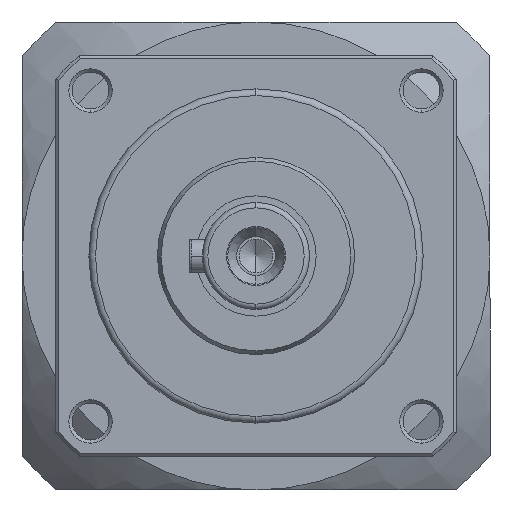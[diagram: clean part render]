
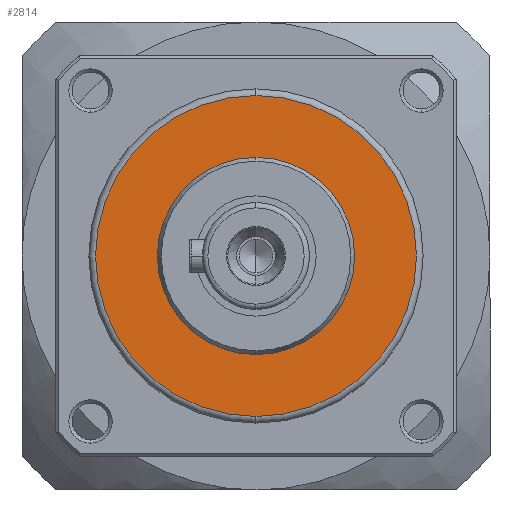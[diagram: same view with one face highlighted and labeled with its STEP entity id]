
A CAD part, left-side view. The second image highlights one B-rep face of the part: STEP entity #2814.
In plain terms, the highlighted planar face has unit normal (-1, 0, 0).
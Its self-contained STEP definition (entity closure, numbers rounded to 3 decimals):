
#573 = EDGE_CURVE ( 'NONE', #4754, #5099, #2190, .T. ) ;
#661 = DIRECTION ( 'NONE',  ( 0., 0., -1. ) ) ;
#687 = CIRCLE ( 'NONE', #1858, 24. ) ;
#1216 = DIRECTION ( 'NONE',  ( 1., 0., 0. ) ) ;
#1380 = CARTESIAN_POINT ( 'NONE',  ( -116.627, 17.121, 14.75 ) ) ;
#1483 = EDGE_LOOP ( 'NONE', ( #1989, #7168 ) ) ;
#1858 = AXIS2_PLACEMENT_3D ( 'NONE', #1921, #4542, #8530 ) ;
#1921 = CARTESIAN_POINT ( 'NONE',  ( -116.627, 17.121, 0. ) ) ;
#1989 = ORIENTED_EDGE ( 'NONE', *, *, #2212, .T. ) ;
#2190 = CIRCLE ( 'NONE', #7226, 24. ) ;
#2212 = EDGE_CURVE ( 'NONE', #5099, #4754, #687, .T. ) ;
#2432 = VERTEX_POINT ( 'NONE', #6136 ) ;
#2542 = CARTESIAN_POINT ( 'NONE',  ( -116.627, 31.871, 0. ) ) ;
#2814 = ADVANCED_FACE ( 'NONE', ( #3325, #6146 ), #8585, .F. ) ;
#2874 = CARTESIAN_POINT ( 'NONE',  ( -116.627, 17.121, 24. ) ) ;
#3325 = FACE_OUTER_BOUND ( 'NONE', #1483, .T. ) ;
#3416 = EDGE_CURVE ( 'NONE', #2432, #5275, #4522, .T. ) ;
#3622 = CARTESIAN_POINT ( 'NONE',  ( -116.627, 17.121, 0. ) ) ;
#3677 = AXIS2_PLACEMENT_3D ( 'NONE', #5090, #3745, #5762 ) ;
#3745 = DIRECTION ( 'NONE',  ( -1., 0., 0. ) ) ;
#3873 = ORIENTED_EDGE ( 'NONE', *, *, #3416, .F. ) ;
#3896 = EDGE_LOOP ( 'NONE', ( #4006, #3873 ) ) ;
#4006 = ORIENTED_EDGE ( 'NONE', *, *, #4457, .F. ) ;
#4457 = EDGE_CURVE ( 'NONE', #5275, #2432, #7418, .T. ) ;
#4522 = CIRCLE ( 'NONE', #7356, 14.75 ) ;
#4542 = DIRECTION ( 'NONE',  ( -1., 0., 0. ) ) ;
#4643 = DIRECTION ( 'NONE',  ( -1., 0., 0. ) ) ;
#4754 = VERTEX_POINT ( 'NONE', #2874 ) ;
#4971 = DIRECTION ( 'NONE',  ( 0., 0., 1. ) ) ;
#5090 = CARTESIAN_POINT ( 'NONE',  ( -116.627, 17.121, 0. ) ) ;
#5099 = VERTEX_POINT ( 'NONE', #7911 ) ;
#5275 = VERTEX_POINT ( 'NONE', #1380 ) ;
#5394 = CARTESIAN_POINT ( 'NONE',  ( -116.627, 17.121, 0. ) ) ;
#5762 = DIRECTION ( 'NONE',  ( 0., 0., 1. ) ) ;
#5933 = DIRECTION ( 'NONE',  ( 0., 0., -1. ) ) ;
#6136 = CARTESIAN_POINT ( 'NONE',  ( -116.627, 17.121, -14.75 ) ) ;
#6146 = FACE_BOUND ( 'NONE', #3896, .T. ) ;
#6525 = AXIS2_PLACEMENT_3D ( 'NONE', #2542, #1216, #5933 ) ;
#7168 = ORIENTED_EDGE ( 'NONE', *, *, #573, .T. ) ;
#7226 = AXIS2_PLACEMENT_3D ( 'NONE', #5394, #4643, #661 ) ;
#7356 = AXIS2_PLACEMENT_3D ( 'NONE', #3622, #7707, #4971 ) ;
#7418 = CIRCLE ( 'NONE', #3677, 14.75 ) ;
#7707 = DIRECTION ( 'NONE',  ( -1., 0., 0. ) ) ;
#7911 = CARTESIAN_POINT ( 'NONE',  ( -116.627, 17.121, -24. ) ) ;
#8530 = DIRECTION ( 'NONE',  ( 0., 0., -1. ) ) ;
#8585 = PLANE ( 'NONE',  #6525 ) ;
